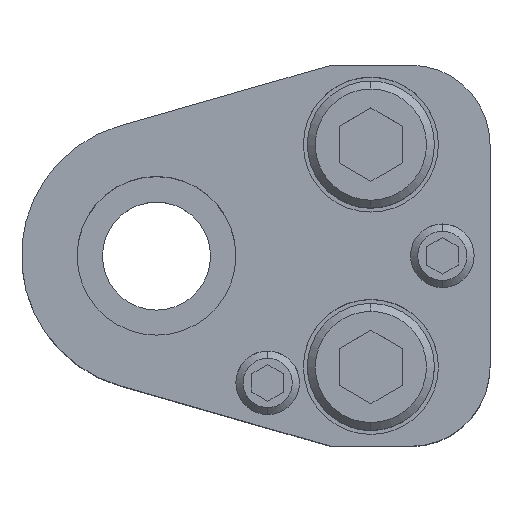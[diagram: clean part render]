
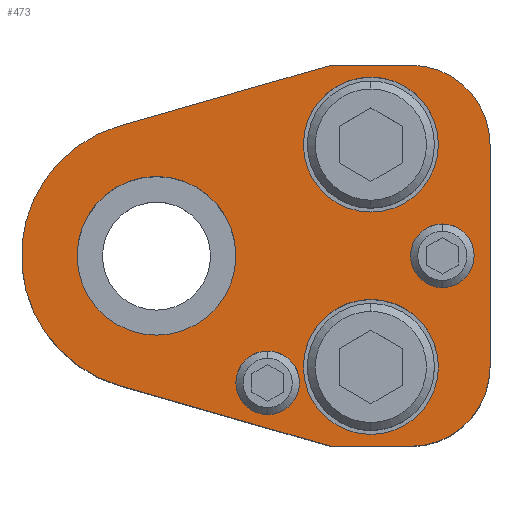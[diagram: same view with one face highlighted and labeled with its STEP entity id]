
A CAD part, top view. The second image highlights one B-rep face of the part: STEP entity #473.
In plain terms, the highlighted planar face has unit normal (0, 0, 1).
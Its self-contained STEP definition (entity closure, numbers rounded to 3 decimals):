
#223=FACE_BOUND('',#843,.T.);
#224=FACE_BOUND('',#844,.T.);
#225=FACE_BOUND('',#845,.T.);
#226=FACE_BOUND('',#846,.T.);
#227=FACE_BOUND('',#847,.T.);
#228=FACE_BOUND('',#848,.T.);
#273=CIRCLE('',#2646,17.);
#275=CIRCLE('',#2651,10.);
#277=CIRCLE('',#2655,10.);
#287=CIRCLE('',#2672,8.5);
#289=CIRCLE('',#2675,8.5);
#291=CIRCLE('',#2679,8.5);
#293=CIRCLE('',#2682,8.5);
#300=CIRCLE('',#2693,10.);
#302=CIRCLE('',#2696,10.);
#321=CIRCLE('',#2730,4.);
#322=CIRCLE('',#2731,4.);
#323=CIRCLE('',#2732,4.);
#324=CIRCLE('',#2733,4.);
#473=ADVANCED_FACE('',(#223,#224,#225,#226,#227,#228),#591,.T.);
#591=PLANE('',#2734);
#843=EDGE_LOOP('',(#1241,#1242,#1243,#1244,#1245,#1246,#1247,#1248));
#844=EDGE_LOOP('',(#1249,#1250));
#845=EDGE_LOOP('',(#1251,#1252));
#846=EDGE_LOOP('',(#1253,#1254));
#847=EDGE_LOOP('',(#1255,#1256));
#848=EDGE_LOOP('',(#1257,#1258));
#1241=ORIENTED_EDGE('',*,*,#1934,.T.);
#1242=ORIENTED_EDGE('',*,*,#1938,.T.);
#1243=ORIENTED_EDGE('',*,*,#1941,.T.);
#1244=ORIENTED_EDGE('',*,*,#1944,.T.);
#1245=ORIENTED_EDGE('',*,*,#1947,.T.);
#1246=ORIENTED_EDGE('',*,*,#1950,.T.);
#1247=ORIENTED_EDGE('',*,*,#1953,.T.);
#1248=ORIENTED_EDGE('',*,*,#1956,.T.);
#1249=ORIENTED_EDGE('',*,*,#2021,.F.);
#1250=ORIENTED_EDGE('',*,*,#2022,.F.);
#1251=ORIENTED_EDGE('',*,*,#2023,.F.);
#1252=ORIENTED_EDGE('',*,*,#2024,.F.);
#1253=ORIENTED_EDGE('',*,*,#1979,.F.);
#1254=ORIENTED_EDGE('',*,*,#1975,.F.);
#1255=ORIENTED_EDGE('',*,*,#1973,.F.);
#1256=ORIENTED_EDGE('',*,*,#1969,.F.);
#1257=ORIENTED_EDGE('',*,*,#1989,.T.);
#1258=ORIENTED_EDGE('',*,*,#1992,.T.);
#1688=VERTEX_POINT('',#3846);
#1689=VERTEX_POINT('',#3848);
#1692=VERTEX_POINT('',#3855);
#1694=VERTEX_POINT('',#3861);
#1696=VERTEX_POINT('',#3867);
#1698=VERTEX_POINT('',#3873);
#1700=VERTEX_POINT('',#3879);
#1702=VERTEX_POINT('',#3885);
#1711=VERTEX_POINT('',#3917);
#1712=VERTEX_POINT('',#3918);
#1715=VERTEX_POINT('',#3930);
#1716=VERTEX_POINT('',#3931);
#1725=VERTEX_POINT('',#3958);
#1726=VERTEX_POINT('',#3960);
#1745=VERTEX_POINT('',#4027);
#1746=VERTEX_POINT('',#4028);
#1747=VERTEX_POINT('',#4031);
#1748=VERTEX_POINT('',#4032);
#1934=EDGE_CURVE('',#1689,#1688,#273,.T.);
#1938=EDGE_CURVE('',#1688,#1692,#2266,.T.);
#1941=EDGE_CURVE('',#1692,#1694,#2269,.T.);
#1944=EDGE_CURVE('',#1694,#1696,#275,.T.);
#1947=EDGE_CURVE('',#1696,#1698,#2273,.T.);
#1950=EDGE_CURVE('',#1698,#1700,#277,.T.);
#1953=EDGE_CURVE('',#1700,#1702,#2277,.T.);
#1956=EDGE_CURVE('',#1702,#1689,#2280,.T.);
#1969=EDGE_CURVE('',#1711,#1712,#287,.T.);
#1973=EDGE_CURVE('',#1712,#1711,#289,.T.);
#1975=EDGE_CURVE('',#1715,#1716,#291,.T.);
#1979=EDGE_CURVE('',#1716,#1715,#293,.T.);
#1989=EDGE_CURVE('',#1726,#1725,#300,.T.);
#1992=EDGE_CURVE('',#1725,#1726,#302,.T.);
#2021=EDGE_CURVE('',#1745,#1746,#321,.T.);
#2022=EDGE_CURVE('',#1746,#1745,#322,.T.);
#2023=EDGE_CURVE('',#1747,#1748,#323,.T.);
#2024=EDGE_CURVE('',#1748,#1747,#324,.T.);
#2266=LINE('',#3856,#2458);
#2269=LINE('',#3862,#2461);
#2273=LINE('',#3874,#2465);
#2277=LINE('',#3886,#2469);
#2280=LINE('',#3890,#2472);
#2458=VECTOR('',#3056,1.);
#2461=VECTOR('',#3061,1.);
#2465=VECTOR('',#3073,1.);
#2469=VECTOR('',#3085,1.);
#2472=VECTOR('',#3090,1.);
#2646=AXIS2_PLACEMENT_3D('',#3847,#3048,#3049);
#2651=AXIS2_PLACEMENT_3D('',#3868,#3066,#3067);
#2655=AXIS2_PLACEMENT_3D('',#3880,#3078,#3079);
#2672=AXIS2_PLACEMENT_3D('',#3916,#3121,#3122);
#2675=AXIS2_PLACEMENT_3D('',#3925,#3129,#3130);
#2679=AXIS2_PLACEMENT_3D('',#3929,#3137,#3138);
#2682=AXIS2_PLACEMENT_3D('',#3938,#3145,#3146);
#2693=AXIS2_PLACEMENT_3D('',#3959,#3170,#3171);
#2696=AXIS2_PLACEMENT_3D('',#3964,#3177,#3178);
#2730=AXIS2_PLACEMENT_3D('',#4026,#3255,#3256);
#2731=AXIS2_PLACEMENT_3D('',#4029,#3257,#3258);
#2732=AXIS2_PLACEMENT_3D('',#4030,#3259,#3260);
#2733=AXIS2_PLACEMENT_3D('',#4033,#3261,#3262);
#2734=AXIS2_PLACEMENT_3D('',#4034,#3263,#3264);
#3048=DIRECTION('',(0.,0.,1.));
#3049=DIRECTION('',(0.,1.,0.));
#3056=DIRECTION('',(0.961,-0.276,0.));
#3061=DIRECTION('',(1.,0.,0.));
#3066=DIRECTION('',(0.,0.,1.));
#3067=DIRECTION('',(-0.707,0.707,0.));
#3073=DIRECTION('',(0.,1.,0.));
#3078=DIRECTION('',(0.,0.,1.));
#3079=DIRECTION('',(-0.707,-0.707,0.));
#3085=DIRECTION('',(-1.,0.,0.));
#3090=DIRECTION('',(-0.961,-0.276,0.));
#3121=DIRECTION('',(0.,0.,1.));
#3122=DIRECTION('',(-1.,0.,0.));
#3129=DIRECTION('',(0.,0.,1.));
#3130=DIRECTION('',(1.,0.,0.));
#3137=DIRECTION('',(0.,0.,1.));
#3138=DIRECTION('',(-1.,0.,0.));
#3145=DIRECTION('',(0.,0.,1.));
#3146=DIRECTION('',(1.,0.,0.));
#3170=DIRECTION('',(0.,0.,-1.));
#3171=DIRECTION('',(-1.,0.,0.));
#3177=DIRECTION('',(0.,0.,-1.));
#3178=DIRECTION('',(1.,0.,0.));
#3255=DIRECTION('',(0.,0.,1.));
#3256=DIRECTION('',(1.,0.,0.));
#3257=DIRECTION('',(0.,0.,1.));
#3258=DIRECTION('',(-1.,0.,0.));
#3259=DIRECTION('',(0.,0.,1.));
#3260=DIRECTION('',(1.,0.,0.));
#3261=DIRECTION('',(0.,0.,1.));
#3262=DIRECTION('',(-1.,0.,0.));
#3263=DIRECTION('',(0.,0.,1.));
#3264=DIRECTION('',(0.961,0.276,0.));
#3846=CARTESIAN_POINT('',(-4.69,-16.34,35.));
#3847=CARTESIAN_POINT('',(0.,0.,35.));
#3848=CARTESIAN_POINT('',(-4.69,16.34,35.));
#3855=CARTESIAN_POINT('',(22.,-24.,35.));
#3856=CARTESIAN_POINT('',(22.,-24.,35.));
#3861=CARTESIAN_POINT('',(32.,-24.,35.));
#3862=CARTESIAN_POINT('',(22.,-24.,35.));
#3867=CARTESIAN_POINT('',(42.,-14.,35.));
#3868=CARTESIAN_POINT('',(32.,-14.,35.));
#3873=CARTESIAN_POINT('',(42.,14.,35.));
#3874=CARTESIAN_POINT('',(42.,-14.,35.));
#3879=CARTESIAN_POINT('',(32.,24.,35.));
#3880=CARTESIAN_POINT('',(32.,14.,35.));
#3885=CARTESIAN_POINT('',(22.,24.,35.));
#3886=CARTESIAN_POINT('',(22.,24.,35.));
#3890=CARTESIAN_POINT('',(22.,24.,35.));
#3916=CARTESIAN_POINT('',(27.,14.,35.));
#3917=CARTESIAN_POINT('',(27.,5.5,35.));
#3918=CARTESIAN_POINT('',(27.,22.5,35.));
#3925=CARTESIAN_POINT('',(27.,14.,35.));
#3929=CARTESIAN_POINT('',(27.,-14.,35.));
#3930=CARTESIAN_POINT('',(27.,-22.5,35.));
#3931=CARTESIAN_POINT('',(27.,-5.5,35.));
#3938=CARTESIAN_POINT('',(27.,-14.,35.));
#3958=CARTESIAN_POINT('',(0.,-10.,35.));
#3959=CARTESIAN_POINT('',(0.,0.,35.));
#3960=CARTESIAN_POINT('',(0.,10.,35.));
#3964=CARTESIAN_POINT('',(0.,0.,35.));
#4026=CARTESIAN_POINT('',(36.,0.,35.));
#4027=CARTESIAN_POINT('',(36.,4.,35.));
#4028=CARTESIAN_POINT('',(36.,-4.,35.));
#4029=CARTESIAN_POINT('',(36.,0.,35.));
#4030=CARTESIAN_POINT('',(14.,-16.,35.));
#4031=CARTESIAN_POINT('',(14.,-12.,35.));
#4032=CARTESIAN_POINT('',(14.,-20.,35.));
#4033=CARTESIAN_POINT('',(14.,-16.,35.));
#4034=CARTESIAN_POINT('',(-4.69,16.34,35.));
